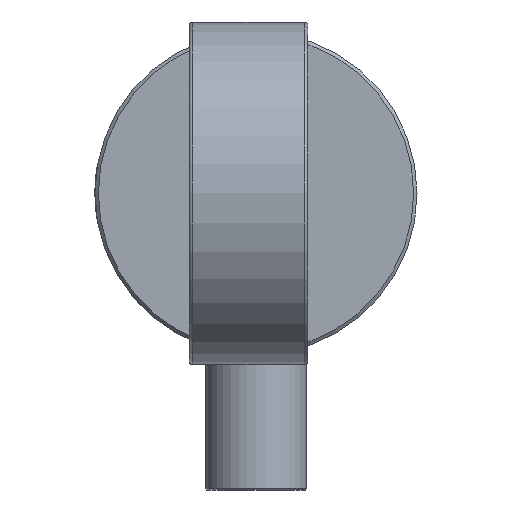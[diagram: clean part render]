
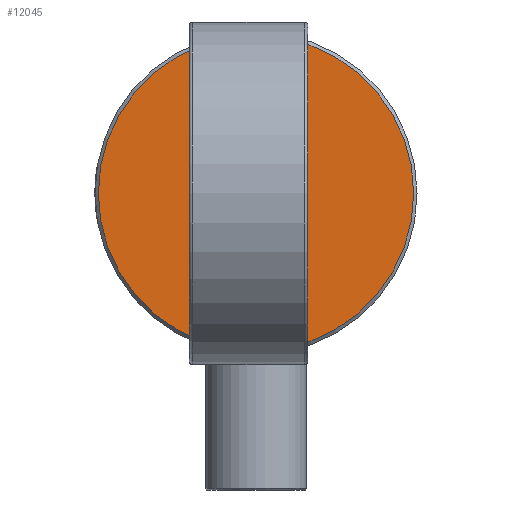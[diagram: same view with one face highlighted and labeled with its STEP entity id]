
A CAD part, front view. The second image highlights one B-rep face of the part: STEP entity #12045.
In plain terms, the highlighted planar face has unit normal (0, -1, 0).
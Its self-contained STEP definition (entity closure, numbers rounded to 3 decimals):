
#1347=PLANE('',#12936);
#1625=FACE_OUTER_BOUND('',#2351,.T.);
#2351=EDGE_LOOP('',(#8352));
#4882=CIRCLE('',#12935,46.5);
#5150=VERTEX_POINT('',#16032);
#6410=EDGE_CURVE('',#5150,#5150,#4882,.T.);
#8352=ORIENTED_EDGE('',*,*,#6410,.F.);
#12045=ADVANCED_FACE('',(#1625),#1347,.T.);
#12935=AXIS2_PLACEMENT_3D('',#16034,#13774,#13775);
#12936=AXIS2_PLACEMENT_3D('',#16035,#13776,#13777);
#13774=DIRECTION('center_axis',(0.,1.,0.));
#13775=DIRECTION('ref_axis',(0.,0.,-1.));
#13776=DIRECTION('center_axis',(0.,-1.,0.));
#13777=DIRECTION('ref_axis',(0.,0.,-1.));
#16032=CARTESIAN_POINT('',(0.,0.,46.5));
#16034=CARTESIAN_POINT('Origin',(0.,0.,0.));
#16035=CARTESIAN_POINT('Origin',(0.,0.,47.5));
